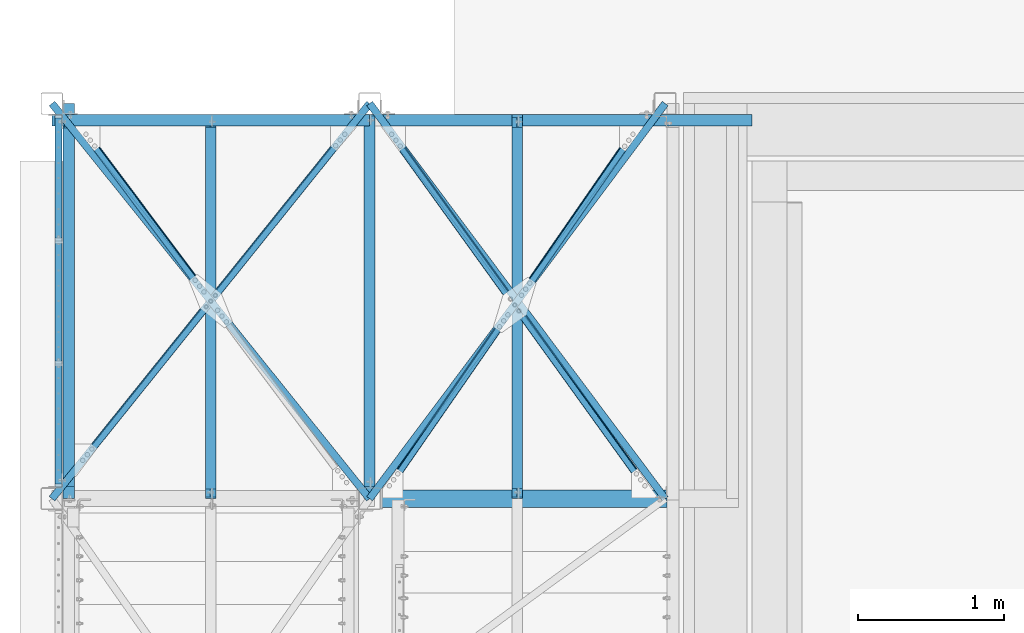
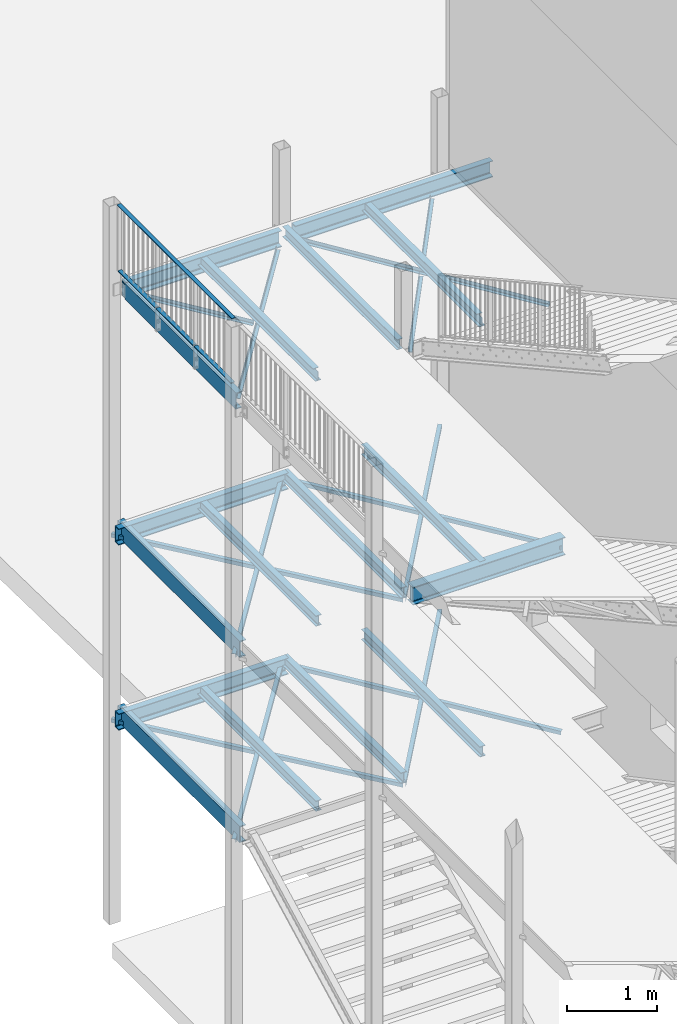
# One storey, part 28 of 78: 32 beams, 31 elements without a shape of their own.
"""IFC2X3 building model written with IfcOpenShell, lengths in millimetres."""

from ifc_helpers import new_model, si_unit, frame, origin_with_axes, origin_2d_with_axis, place, context, subcontext, project, spatial, polyline, rectangle, i_section, l_section, u_section, outline, extrude, boolean, clip, halfspace, material, type_object, element, aggregate, save


model = new_model("IFC2X3")

# Units and contexts
model_context = context("Model", 3, precision=1e-05, world=origin_with_axes())
body_context = subcontext(model_context, "Body", "Model", "MODEL_VIEW")
ifc_project = project(units=[si_unit("LENGTHUNIT", "METRE", prefix="MILLI"), si_unit("AREAUNIT", "SQUARE_METRE"), si_unit("VOLUMEUNIT", "CUBIC_METRE"), si_unit("MASSUNIT", "GRAM", prefix="KILO"), si_unit("TIMEUNIT", "SECOND"), si_unit("PLANEANGLEUNIT", "RADIAN"), si_unit("SOLIDANGLEUNIT", "STERADIAN"), si_unit("THERMODYNAMICTEMPERATUREUNIT", "DEGREE_CELSIUS"), si_unit("LUMINOUSINTENSITYUNIT", "LUMEN")], contexts=[model_context])

# Site, building, storey
site_placement = place(None, origin_with_axes())
site = spatial("IfcSite", under=ifc_project, at=site_placement, Name="Site", CompositionType="ELEMENT")
building_placement = place(site_placement, origin_with_axes())
building = spatial("IfcBuilding", under=site, at=building_placement, Name="Undefined", CompositionType="ELEMENT")
storey_placement = place(building_placement, origin_with_axes())
storey = spatial("IfcBuildingStorey", under=building, at=storey_placement, Name="Undefined", CompositionType="ELEMENT", Elevation=0.0)

# Assembly, beam
assembly_1_placement = place(storey_placement, origin_with_axes())
assembly_1 = element("IfcElementAssembly", 1, at=assembly_1_placement, inside=storey, AssemblyPlace="NOTDEFINED", PredefinedType="RIGID_FRAME")
ifc_material_1 = material(Name="STEEL/S275JR")
beam_type_1 = type_object("IfcBeamType", Name="UPN220", PredefinedType="NOTDEFINED")
beam_1_placement = place(assembly_1_placement, frame((-33216.43, 12693.0, 156560.04), z_axis=(0.0, 0.0, 1.0), x_axis=(1.0, 0.0, 0.0)))
beam_1 = element("IfcBeam", 2, at=beam_1_placement, type_object=beam_type_1, material=ifc_material_1, Name="SOLIVE", ObjectType="UPN220", context=body_context, shape_type="Clipping", body=[
    clip(extrude(u_section(Depth=220.0, FlangeWidth=80.0, WebThickness=9.0, FlangeThickness=12.5, FilletRadius=12.5, EdgeRadius=6.5, FlangeSlope=0.0798299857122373, at=origin_2d_with_axis()), frame((2612.98999999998, 0.0, 0.0), z_axis=(-1.0, 0.0, 0.0), x_axis=(0.0, -1.0, 0.0)), (0.0, 0.0, 1.0), 2612.99), halfspace(frame((84.9999999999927, 40.0, -110.0), z_axis=(-1.0, 0.0, 0.0), x_axis=(0.0, 0.0, 1.0)), False)),
])
aggregate(assembly_1, [beam_1])

assembly_2_placement = place(storey_placement, origin_with_axes())
assembly_2 = element("IfcElementAssembly", 3, at=assembly_2_placement, inside=storey, AssemblyPlace="NOTDEFINED", PredefinedType="RIGID_FRAME")
beam_2_placement = place(assembly_2_placement, frame((-35271.43, 12808.0, 150760.04), z_axis=(0.0, 0.0, -1.0), x_axis=(0.0, -1.0, 0.0)))
beam_2 = element("IfcBeam", 4, at=beam_2_placement, type_object=beam_type_1, material=ifc_material_1, Name="SOLIVE", ObjectType="UPN220", context=body_context, shape_type="SweptSolid", body=[
    extrude(u_section(Depth=220.0, FlangeWidth=80.0, WebThickness=9.0, FlangeThickness=12.5, FilletRadius=12.5, EdgeRadius=6.5, FlangeSlope=0.0798299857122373, at=origin_2d_with_axis()), frame((2699.99999999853, 0.0, 0.0), z_axis=(-1.0, 0.0, 0.0), x_axis=(0.0, -1.0, 0.0)), (0.0, 0.0, 1.0), 2700.0),
])
aggregate(assembly_2, [beam_2])

assembly_3_placement = place(storey_placement, origin_with_axes())
assembly_3 = element("IfcElementAssembly", 5, at=assembly_3_placement, inside=storey, AssemblyPlace="NOTDEFINED", PredefinedType="RIGID_FRAME")
beam_3_placement = place(assembly_3_placement, frame((-35386.43, 12693.0, 150760.04), z_axis=(0.0, 0.0, 1.0), x_axis=(1.0, 0.0, 0.0)))
beam_3 = element("IfcBeam", 6, at=beam_3_placement, type_object=beam_type_1, material=ifc_material_1, Name="SOLIVE", ObjectType="UPN220", context=body_context, shape_type="SweptSolid", body=[
    extrude(u_section(Depth=220.0, FlangeWidth=80.0, WebThickness=9.0, FlangeThickness=12.5, FilletRadius=12.5, EdgeRadius=6.5, FlangeSlope=0.0798299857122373, at=origin_2d_with_axis()), frame((2169.99999999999, 0.0, 0.0), z_axis=(-1.0, 0.0, 0.0), x_axis=(0.0, -1.0, 0.0)), (0.0, 0.0, 1.0), 2170.0),
])
aggregate(assembly_3, [beam_3])

assembly_4_placement = place(storey_placement, origin_with_axes())
assembly_4 = element("IfcElementAssembly", 7, at=assembly_4_placement, inside=storey, AssemblyPlace="NOTDEFINED", PredefinedType="RIGID_FRAME")
beam_4_placement = place(assembly_4_placement, frame((-35271.43, 12808.0, 156560.04), z_axis=(0.0, 0.0, -1.0), x_axis=(0.0, -1.0, 0.0)))
beam_4 = element("IfcBeam", 8, at=beam_4_placement, type_object=beam_type_1, material=ifc_material_1, Name="SOLIVE", ObjectType="UPN220", context=body_context, shape_type="CSG", body=[
    boolean("DIFFERENCE", boolean("DIFFERENCE", boolean("DIFFERENCE", boolean("DIFFERENCE", extrude(u_section(Depth=220.0, FlangeWidth=80.0, WebThickness=9.0, FlangeThickness=12.5, FilletRadius=12.5, EdgeRadius=6.5, FlangeSlope=0.0798299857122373, at=origin_2d_with_axis()), frame((2699.99999999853, 0.0, 0.0), z_axis=(-1.0, 0.0, 0.0), x_axis=(0.0, -1.0, 0.0)), (0.0, 0.0, 1.0), 2700.0), extrude(outline(polyline([(0.0, 0.0), (82.0, 0.0), (82.0, 34.0), (0.0, 34.0), (0.0, 0.0)])), frame((84.0, 49.9999999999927, 86.0), z_axis=(0.0, -1.0, 0.0), x_axis=(1.0, 0.0, 0.0)), (0.0, 0.0, 1.0), 100.0)), extrude(outline(polyline([(0.0, 0.0), (82.0, 0.0), (82.0, 34.0), (0.0, 34.0), (0.0, 0.0)])), frame((84.0, -50.0000000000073, -86.0), z_axis=(0.0, 1.0, 0.0), x_axis=(1.0, 0.0, 0.0)), (0.0, 0.0, 1.0), 100.0)), halfspace(frame((2615.0, -40.0, -110.0), z_axis=(1.0, 0.0, 0.0), x_axis=(0.0, 0.0, 1.0)), False)), halfspace(frame((94.0, 0.0, 1000.0), z_axis=(-1.0, 0.0, 0.0), x_axis=(0.0, -1.0, 0.0)), False)),
])
aggregate(assembly_4, [beam_4])

assembly_5_placement = place(storey_placement, origin_with_axes())
assembly_5 = element("IfcElementAssembly", 9, at=assembly_5_placement, inside=storey, AssemblyPlace="NOTDEFINED", PredefinedType="RIGID_FRAME")
beam_5_placement = place(assembly_5_placement, frame((-35386.43, 12693.0, 156560.04), z_axis=(0.0, 0.0, 1.0), x_axis=(1.0, 0.0, 0.0)))
beam_5 = element("IfcBeam", 10, at=beam_5_placement, type_object=beam_type_1, material=ifc_material_1, Name="SOLIVE", ObjectType="UPN220", context=body_context, shape_type="Clipping", body=[
    clip(clip(extrude(u_section(Depth=220.0, FlangeWidth=80.0, WebThickness=9.0, FlangeThickness=12.5, FilletRadius=12.5, EdgeRadius=6.5, FlangeSlope=0.0798299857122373, at=origin_2d_with_axis()), frame((2169.99999999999, 0.0, 0.0), z_axis=(-1.0, 0.0, 0.0), x_axis=(0.0, -1.0, 0.0)), (0.0, 0.0, 1.0), 2170.0), halfspace(frame((2085.0, -40.0, -109.999999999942), z_axis=(1.0, 0.0, 0.0), x_axis=(0.0, 0.0, 1.0)), False)), halfspace(frame((84.9999999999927, 40.0, -110.0), z_axis=(-1.0, 0.0, 0.0), x_axis=(0.0, 0.0, 1.0)), False)),
])
aggregate(assembly_5, [beam_5])

assembly_6_placement = place(storey_placement, origin_with_axes())
assembly_6 = element("IfcElementAssembly", 11, at=assembly_6_placement, inside=storey, AssemblyPlace="NOTDEFINED", PredefinedType="RIGID_FRAME")
beam_6_placement = place(assembly_6_placement, frame((-35271.43, 12808.0, 153260.04), z_axis=(0.0, 0.0, -1.0), x_axis=(0.0, -1.0, 0.0)))
beam_6 = element("IfcBeam", 12, at=beam_6_placement, type_object=beam_type_1, material=ifc_material_1, Name="SOLIVE", ObjectType="UPN220", context=body_context, shape_type="SweptSolid", body=[
    extrude(u_section(Depth=220.0, FlangeWidth=80.0, WebThickness=9.0, FlangeThickness=12.5, FilletRadius=12.5, EdgeRadius=6.5, FlangeSlope=0.0798299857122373, at=origin_2d_with_axis()), frame((2699.99999999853, 0.0, 0.0), z_axis=(-1.0, 0.0, 0.0), x_axis=(0.0, -1.0, 0.0)), (0.0, 0.0, 1.0), 2700.0),
])
aggregate(assembly_6, [beam_6])

assembly_7_placement = place(storey_placement, origin_with_axes())
assembly_7 = element("IfcElementAssembly", 13, at=assembly_7_placement, inside=storey, Name="STAB", AssemblyPlace="NOTDEFINED", PredefinedType="RIGID_FRAME")
beam_7_placement = place(assembly_7_placement, frame((-35386.43, 12693.0, 153260.04), z_axis=(0.0, 0.0, 1.0), x_axis=(1.0, 0.0, 0.0)))
beam_7 = element("IfcBeam", 14, at=beam_7_placement, type_object=beam_type_1, material=ifc_material_1, Name="SOLIVE", ObjectType="UPN220", context=body_context, shape_type="SweptSolid", body=[
    extrude(u_section(Depth=220.0, FlangeWidth=80.0, WebThickness=9.0, FlangeThickness=12.5, FilletRadius=12.5, EdgeRadius=6.5, FlangeSlope=0.0798299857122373, at=origin_2d_with_axis()), frame((2169.99999999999, 0.0, 0.0), z_axis=(-1.0, 0.0, 0.0), x_axis=(0.0, -1.0, 0.0)), (0.0, 0.0, 1.0), 2170.0),
])
aggregate(assembly_7, [beam_7])

# Assembly, beams
assembly_8_placement = place(storey_placement, origin_with_axes())
assembly_8 = element("IfcElementAssembly", 15, at=assembly_8_placement, inside=storey, Name="MAIN_COURANTE", AssemblyPlace="NOTDEFINED", PredefinedType="RIGID_FRAME")
ifc_material_2 = material(Name="STEEL/S235JR")
beam_type_2 = type_object("IfcBeamType", Name="PL10*50", PredefinedType="NOTDEFINED")
beam_8_placement = place(assembly_8_placement, frame((-35341.4299999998, 10187.9999999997, 156815.04), z_axis=(1.0, 0.0, 0.0), x_axis=(0.0, 1.0, 0.0)))
solid_1 = boolean("DIFFERENCE", boolean("DIFFERENCE", extrude(rectangle(XDim=20.0, YDim=50.0, at=origin_2d_with_axis()), frame((10.0000000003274, 885.0, -2.18278728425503e-10), z_axis=(0.0, -1.0, 0.0), x_axis=(1.0, 0.0, 0.0)), (0.0, 0.0, 1.0), 1190.0), halfspace(frame((10.0000000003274, 875.0, -2.18278728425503e-11), z_axis=(0.0, 1.0, 0.0), x_axis=(0.0, 0.0, -1.0)), False)), halfspace(frame((-999.999999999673, -305.0, -2.18278728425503e-10), z_axis=(0.0, 1.0, 0.0), x_axis=(0.0, 0.0, -1.0)), True))
solid_2 = boolean("DIFFERENCE", boolean("DIFFERENCE", extrude(rectangle(XDim=20.0, YDim=50.0, at=origin_2d_with_axis()), frame((850.000000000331, 885.0, -2.18278728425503e-10), z_axis=(0.0, -1.0, 0.0), x_axis=(1.0, 0.0, 0.0)), (0.0, 0.0, 1.0), 1190.0), halfspace(frame((850.000000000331, 875.0, -2.18278728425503e-11), z_axis=(0.0, 1.0, 0.0), x_axis=(0.0, 0.0, -1.0)), False)), halfspace(frame((-159.999999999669, -305.0, -2.18278728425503e-10), z_axis=(0.0, 1.0, 0.0), x_axis=(0.0, 0.0, -1.0)), True))
solid_3 = boolean("DIFFERENCE", boolean("DIFFERENCE", extrude(rectangle(XDim=20.0, YDim=50.0, at=origin_2d_with_axis()), frame((1690.00000000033, 885.0, -2.25554686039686e-10), z_axis=(0.0, -1.0, 0.0), x_axis=(1.0, 0.0, 0.0)), (0.0, 0.0, 1.0), 1190.0), halfspace(frame((1690.00000000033, 875.0, -3.63797880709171e-11), z_axis=(0.0, 1.0, 0.0), x_axis=(0.0, 0.0, -1.0)), False)), halfspace(frame((680.000000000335, -305.0, -2.25554686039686e-10), z_axis=(0.0, 1.0, 0.0), x_axis=(0.0, 0.0, -1.0)), True))
solid_4 = boolean("DIFFERENCE", extrude(rectangle(XDim=20.0, YDim=50.0, at=origin_2d_with_axis()), frame((2530.00000000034, 885.0, -2.18278728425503e-10), z_axis=(0.0, -1.0, 0.0), x_axis=(1.0, 0.0, 0.0)), (0.0, 0.0, 1.0), 1030.0), halfspace(frame((2530.00000000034, 875.0, -3.63797880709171e-11), z_axis=(0.0, 1.0, 0.0), x_axis=(0.0, 0.0, -1.0)), False))
beam_8 = element("IfcBeam", 16, at=beam_8_placement, type_object=beam_type_2, material=ifc_material_2, Name="LISSE", ObjectType="PL10*50", context=body_context, shape_type="CSG", body=[
    boolean("DIFFERENCE", boolean("DIFFERENCE", boolean("DIFFERENCE", boolean("DIFFERENCE", extrude(rectangle(XDim=10.0, YDim=50.0, at=origin_2d_with_axis()), frame((2540.00000000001, 0.0, 0.0), z_axis=(-1.0, 0.0, 0.0), x_axis=(0.0, -1.0, 0.0)), (0.0, 0.0, 1.0), 2540.0), solid_1), solid_2), solid_3), solid_4),
])
beam_9_placement = place(assembly_8_placement, frame((-35341.4299999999, 12728.0, 157695.04), z_axis=(1.0, 0.0, 0.0), x_axis=(0.0, -1.0, 0.0)))
beam_9 = element("IfcBeam", 17, at=beam_9_placement, type_object=beam_type_2, material=ifc_material_2, Name="MAIN_COURANTE", ObjectType="PL10*50", context=body_context, shape_type="SweptSolid", body=[
    extrude(rectangle(XDim=10.0, YDim=50.0, at=origin_2d_with_axis()), frame((2540.00000000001, 0.0, 0.0), z_axis=(-1.0, 0.0, 0.0), x_axis=(0.0, -1.0, 0.0)), (0.0, 0.0, 1.0), 2540.0),
])
aggregate(assembly_8, [beam_8, beam_9])

# Assembly, beam
assembly_9_placement = place(storey_placement, origin_with_axes())
assembly_9 = element("IfcElementAssembly", 18, at=assembly_9_placement, inside=storey, Name="STAB", AssemblyPlace="NOTDEFINED", PredefinedType="RIGID_FRAME")
beam_type_3 = type_object("IfcBeamType", Name="L50*5", PredefinedType="NOTDEFINED")
beam_10_placement = place(assembly_9_placement, frame((-32225.283595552, 11430.7782309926, 156483.04), z_axis=(0.0, 0.0, 1.0), x_axis=(0.569368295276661, 0.822082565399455, 0.0)))
beam_10 = element("IfcBeam", 19, at=beam_10_placement, type_object=beam_type_3, material=ifc_material_1, Name="STAB", ObjectType="L50*5", context=body_context, shape_type="Clipping", body=[
    clip(clip(extrude(l_section(Depth=50.0, Width=50.0, Thickness=5.0, FilletRadius=7.0, EdgeRadius=3.5, at=origin_2d_with_axis()), frame((1675.28400064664, 1.85993887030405e-13, 0.0), z_axis=(-1.0, 0.0, 0.0), x_axis=(0.0, -1.0, 0.0)), (0.0, 0.0, 1.0), 1675.28), halfspace(frame((1445.09519071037, -9.45874489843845e-11, -33.0), z_axis=(-1.0, 0.0, 0.0), x_axis=(0.0, 1.0, 0.0)), True)), halfspace(frame((57.4409158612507, 8.73114913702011e-11, -33.0), z_axis=(1.0, 0.0, 0.0), x_axis=(0.0, -1.0, 0.0)), True)),
])
aggregate(assembly_9, [beam_10])

assembly_10_placement = place(storey_placement, origin_with_axes())
assembly_10 = element("IfcElementAssembly", 20, at=assembly_10_placement, inside=storey, Name="STAB", AssemblyPlace="NOTDEFINED", PredefinedType="RIGID_FRAME")
beam_11_placement = place(assembly_10_placement, frame((-33141.4299999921, 10107.9999999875, 156483.04), z_axis=(0.0, 0.0, 1.0), x_axis=(0.569368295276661, 0.822082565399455, 0.0)))
beam_11 = element("IfcBeam", 21, at=beam_11_placement, type_object=beam_type_3, material=ifc_material_1, Name="STAB", ObjectType="L50*5", context=body_context, shape_type="Clipping", body=[
    clip(clip(extrude(l_section(Depth=50.0, Width=50.0, Thickness=5.0, FilletRadius=7.0, EdgeRadius=3.5, at=origin_2d_with_axis()), frame((1609.05763811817, 0.0, -2.91038304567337e-11), z_axis=(-1.0, 0.0, 0.0), x_axis=(0.0, -1.0, 0.0)), (0.0, 0.0, 1.0), 1609.06), halfspace(frame((1553.27542334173, 1.16415321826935e-10, -33.0000000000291), z_axis=(-1.0, 0.0, 0.0), x_axis=(0.0, 1.0, 0.0)), True)), halfspace(frame((81.9068669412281, 8.00355337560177e-11, -33.0000000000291), z_axis=(1.0, 0.0, 0.0), x_axis=(0.0, -1.0, 0.0)), True)),
])
aggregate(assembly_10, [beam_11])

assembly_11_placement = place(storey_placement, origin_with_axes())
assembly_11 = element("IfcElementAssembly", 22, at=assembly_11_placement, inside=storey, Name="STAB", AssemblyPlace="NOTDEFINED", PredefinedType="RIGID_FRAME")
beam_12_placement = place(assembly_11_placement, frame((-33216.4299999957, 10107.9999999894, 150705.04), z_axis=(0.0, 0.0, -1.0), x_axis=(0.599050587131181, 0.800711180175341, 0.0)))
beam_12 = element("IfcBeam", 23, at=beam_12_placement, type_object=beam_type_3, material=ifc_material_1, Name="STAB", ObjectType="L50*5", context=body_context, shape_type="SweptSolid", body=[
    extrude(l_section(Depth=50.0, Width=50.0, Thickness=5.0, FilletRadius=7.0, EdgeRadius=3.5, at=origin_2d_with_axis()), frame((3372.00237247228, 1.87183733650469e-13, 0.0), z_axis=(-1.0, 0.0, 0.0), x_axis=(0.0, -1.0, 0.0)), (0.0, 0.0, 1.0), 3372.0),
])
aggregate(assembly_11, [beam_12])

assembly_12_placement = place(storey_placement, origin_with_axes())
assembly_12 = element("IfcElementAssembly", 24, at=assembly_12_placement, inside=storey, Name="STAB", AssemblyPlace="NOTDEFINED", PredefinedType="RIGID_FRAME")
beam_13_placement = place(assembly_12_placement, frame((-33216.4300000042, 12807.9999999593, 150705.04), z_axis=(0.0, 0.0, -1.0), x_axis=(0.59905058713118, -0.800711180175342, 0.0)))
beam_13 = element("IfcBeam", 25, at=beam_13_placement, type_object=beam_type_3, material=ifc_material_1, Name="STAB", ObjectType="L50*5", context=body_context, shape_type="SweptSolid", body=[
    extrude(l_section(Depth=50.0, Width=50.0, Thickness=5.0, FilletRadius=7.0, EdgeRadius=3.5, at=origin_2d_with_axis()), frame((3372.00237247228, 1.87183733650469e-13, 0.0), z_axis=(-1.0, 0.0, 0.0), x_axis=(0.0, -1.0, 0.0)), (0.0, 0.0, 1.0), 3372.0),
])
aggregate(assembly_12, [beam_13])

assembly_13_placement = place(storey_placement, origin_with_axes())
assembly_13 = element("IfcElementAssembly", 26, at=assembly_13_placement, inside=storey, Name="STAB", AssemblyPlace="NOTDEFINED", PredefinedType="RIGID_FRAME")
beam_14_placement = place(assembly_13_placement, frame((-33216.4300000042, 12807.9999999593, 156483.04), z_axis=(0.0, 0.0, 1.0), x_axis=(0.584502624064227, -0.81139181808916, 0.0)))
beam_14 = element("IfcBeam", 27, at=beam_14_placement, type_object=beam_type_3, material=ifc_material_1, Name="STAB", ObjectType="L50*5", context=body_context, shape_type="Clipping", body=[
    clip(clip(extrude(l_section(Depth=50.0, Width=50.0, Thickness=5.0, FilletRadius=7.0, EdgeRadius=3.5, at=origin_2d_with_axis()), frame((3327.61551265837, 3.69439535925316e-13, -2.91038304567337e-11), z_axis=(-1.0, 0.0, 0.0), x_axis=(0.0, -1.0, 0.0)), (0.0, 0.0, 1.0), 3327.62), halfspace(frame((3244.16314752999, -8.00355337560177e-11, -33.0000000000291), z_axis=(-1.0, 0.0, 0.0), x_axis=(0.0, 1.0, 0.0)), True)), halfspace(frame((233.68804236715, 8.00355337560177e-11, -33.0000000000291), z_axis=(1.0, 0.0, 0.0), x_axis=(0.0, -1.0, 0.0)), True)),
])
aggregate(assembly_13, [beam_14])

assembly_14_placement = place(storey_placement, origin_with_axes())
assembly_14 = element("IfcElementAssembly", 28, at=assembly_14_placement, inside=storey, Name="STAB", AssemblyPlace="NOTDEFINED", PredefinedType="RIGID_FRAME")
beam_15_placement = place(assembly_14_placement, frame((-33216.4299999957, 10107.9999999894, 153205.04), z_axis=(0.0, 0.0, -1.0), x_axis=(0.599050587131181, 0.800711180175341, 0.0)))
beam_15 = element("IfcBeam", 29, at=beam_15_placement, type_object=beam_type_3, material=ifc_material_1, Name="STAB", ObjectType="L50*5", context=body_context, shape_type="SweptSolid", body=[
    extrude(l_section(Depth=50.0, Width=50.0, Thickness=5.0, FilletRadius=7.0, EdgeRadius=3.5, at=origin_2d_with_axis()), frame((3372.00237247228, 1.87183733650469e-13, 0.0), z_axis=(-1.0, 0.0, 0.0), x_axis=(0.0, -1.0, 0.0)), (0.0, 0.0, 1.0), 3372.0),
])
aggregate(assembly_14, [beam_15])

assembly_15_placement = place(storey_placement, origin_with_axes())
assembly_15 = element("IfcElementAssembly", 30, at=assembly_15_placement, inside=storey, Name="STAB", AssemblyPlace="NOTDEFINED", PredefinedType="RIGID_FRAME")
beam_16_placement = place(assembly_15_placement, frame((-33216.4300000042, 12807.9999999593, 153205.04), z_axis=(0.0, 0.0, -1.0), x_axis=(0.59905058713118, -0.800711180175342, 0.0)))
beam_16 = element("IfcBeam", 31, at=beam_16_placement, type_object=beam_type_3, material=ifc_material_1, Name="STAB", ObjectType="L50*5", context=body_context, shape_type="SweptSolid", body=[
    extrude(l_section(Depth=50.0, Width=50.0, Thickness=5.0, FilletRadius=7.0, EdgeRadius=3.5, at=origin_2d_with_axis()), frame((3372.00237247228, 1.87183733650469e-13, 0.0), z_axis=(-1.0, 0.0, 0.0), x_axis=(0.0, -1.0, 0.0)), (0.0, 0.0, 1.0), 3372.0),
])
aggregate(assembly_15, [beam_16])

assembly_16_placement = place(storey_placement, origin_with_axes())
assembly_16 = element("IfcElementAssembly", 32, at=assembly_16_placement, inside=storey, Name="STAB", AssemblyPlace="NOTDEFINED", PredefinedType="RIGID_FRAME")
beam_17_placement = place(assembly_16_placement, frame((-35386.4299999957, 10107.9999999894, 150705.04), z_axis=(0.0, 0.0, -1.0), x_axis=(0.626453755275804, 0.779458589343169, 0.0)))
beam_17 = element("IfcBeam", 33, at=beam_17_placement, type_object=beam_type_3, material=ifc_material_1, Name="STAB", ObjectType="L50*5", context=body_context, shape_type="SweptSolid", body=[
    extrude(l_section(Depth=50.0, Width=50.0, Thickness=5.0, FilletRadius=7.0, EdgeRadius=3.5, at=origin_2d_with_axis()), frame((3463.94284017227, 0.0, 2.91038304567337e-11), z_axis=(-1.0, 0.0, 0.0), x_axis=(0.0, -1.0, 0.0)), (0.0, 0.0, 1.0), 3463.94),
])
aggregate(assembly_16, [beam_17])

assembly_17_placement = place(storey_placement, origin_with_axes())
assembly_17 = element("IfcElementAssembly", 34, at=assembly_17_placement, inside=storey, Name="STAB", AssemblyPlace="NOTDEFINED", PredefinedType="RIGID_FRAME")
beam_18_placement = place(assembly_17_placement, frame((-35386.4300000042, 12807.9999999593, 150705.04), z_axis=(0.0, 0.0, -1.0), x_axis=(0.626453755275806, -0.779458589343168, 0.0)))
beam_18 = element("IfcBeam", 35, at=beam_18_placement, type_object=beam_type_3, material=ifc_material_1, Name="STAB", ObjectType="L50*5", context=body_context, shape_type="SweptSolid", body=[
    extrude(l_section(Depth=50.0, Width=50.0, Thickness=5.0, FilletRadius=7.0, EdgeRadius=3.5, at=origin_2d_with_axis()), frame((3463.94284017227, 0.0, 2.91038304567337e-11), z_axis=(-1.0, 0.0, 0.0), x_axis=(0.0, -1.0, 0.0)), (0.0, 0.0, 1.0), 3463.94),
])
aggregate(assembly_17, [beam_18])

assembly_18_placement = place(storey_placement, origin_with_axes())
assembly_18 = element("IfcElementAssembly", 36, at=assembly_18_placement, inside=storey, Name="STAB", AssemblyPlace="NOTDEFINED", PredefinedType="RIGID_FRAME")
beam_19_placement = place(assembly_18_placement, frame((-35386.4299999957, 10107.9999999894, 156483.04), z_axis=(0.0, 0.0, 1.0), x_axis=(0.626453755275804, 0.779458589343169, 0.0)))
beam_19 = element("IfcBeam", 37, at=beam_19_placement, type_object=beam_type_3, material=ifc_material_1, Name="STAB", ObjectType="L50*5", context=body_context, shape_type="Clipping", body=[
    clip(clip(extrude(l_section(Depth=50.0, Width=50.0, Thickness=5.0, FilletRadius=7.0, EdgeRadius=3.5, at=origin_2d_with_axis()), frame((3463.94284017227, 0.0, 2.91038304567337e-11), z_axis=(-1.0, 0.0, 0.0), x_axis=(0.0, -1.0, 0.0)), (0.0, 0.0, 1.0), 3463.94), halfspace(frame((3219.33543415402, 2.5465851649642e-10, -33.0000000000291), z_axis=(-1.0, 0.0, 0.0), x_axis=(0.0, 1.0, 0.0)), True)), halfspace(frame((310.456219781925, -3.56521923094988e-10, -33.0000000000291), z_axis=(1.0, 0.0, 0.0), x_axis=(0.0, -1.0, 0.0)), True)),
])
aggregate(assembly_18, [beam_19])

assembly_19_placement = place(storey_placement, origin_with_axes())
assembly_19 = element("IfcElementAssembly", 38, at=assembly_19_placement, inside=storey, Name="STAB", AssemblyPlace="NOTDEFINED", PredefinedType="RIGID_FRAME")
beam_20_placement = place(assembly_19_placement, frame((-35311.4300000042, 12807.9999999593, 156483.04), z_axis=(0.0, 0.0, 1.0), x_axis=(0.59905058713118, -0.800711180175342, 0.0)))
beam_20 = element("IfcBeam", 39, at=beam_20_placement, type_object=beam_type_3, material=ifc_material_1, Name="STAB", ObjectType="L50*5", context=body_context, shape_type="Clipping", body=[
    clip(clip(extrude(l_section(Depth=50.0, Width=50.0, Thickness=5.0, FilletRadius=7.0, EdgeRadius=3.5, at=origin_2d_with_axis()), frame((1686.0011860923, 0.0, 0.0), z_axis=(-1.0, 0.0, 0.0), x_axis=(0.0, -1.0, 0.0)), (0.0, 0.0, 1.0), 1686.0), halfspace(frame((1633.11653529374, 6.54836185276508e-11, -33.0), z_axis=(-1.0, 0.0, 0.0), x_axis=(0.0, 1.0, 0.0)), True)), halfspace(frame((237.259413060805, 5.89352566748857e-10, -33.0), z_axis=(1.0, 0.0, 0.0), x_axis=(0.0, -1.0, 0.0)), True)),
])
aggregate(assembly_19, [beam_20])

assembly_20_placement = place(storey_placement, origin_with_axes())
assembly_20 = element("IfcElementAssembly", 40, at=assembly_20_placement, inside=storey, Name="STAB", AssemblyPlace="NOTDEFINED", PredefinedType="RIGID_FRAME")
beam_21_placement = place(assembly_20_placement, frame((-35386.4299999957, 10107.9999999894, 153205.04), z_axis=(0.0, 0.0, -1.0), x_axis=(0.626453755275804, 0.779458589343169, 0.0)))
beam_21 = element("IfcBeam", 41, at=beam_21_placement, type_object=beam_type_3, material=ifc_material_1, Name="STAB", ObjectType="L50*5", context=body_context, shape_type="SweptSolid", body=[
    extrude(l_section(Depth=50.0, Width=50.0, Thickness=5.0, FilletRadius=7.0, EdgeRadius=3.5, at=origin_2d_with_axis()), frame((3463.94284017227, 0.0, 2.91038304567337e-11), z_axis=(-1.0, 0.0, 0.0), x_axis=(0.0, -1.0, 0.0)), (0.0, 0.0, 1.0), 3463.94),
])
aggregate(assembly_20, [beam_21])

assembly_21_placement = place(storey_placement, origin_with_axes())
assembly_21 = element("IfcElementAssembly", 42, at=assembly_21_placement, inside=storey, Name="STAB", AssemblyPlace="NOTDEFINED", PredefinedType="RIGID_FRAME")
beam_22_placement = place(assembly_21_placement, frame((-35386.4300000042, 12807.9999999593, 153205.04), z_axis=(0.0, 0.0, -1.0), x_axis=(0.626453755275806, -0.779458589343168, 0.0)))
beam_22 = element("IfcBeam", 43, at=beam_22_placement, type_object=beam_type_3, material=ifc_material_1, Name="STAB", ObjectType="L50*5", context=body_context, shape_type="SweptSolid", body=[
    extrude(l_section(Depth=50.0, Width=50.0, Thickness=5.0, FilletRadius=7.0, EdgeRadius=3.5, at=origin_2d_with_axis()), frame((3463.94284017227, 0.0, 2.91038304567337e-11), z_axis=(-1.0, 0.0, 0.0), x_axis=(0.0, -1.0, 0.0)), (0.0, 0.0, 1.0), 3463.94),
])
aggregate(assembly_21, [beam_22])

assembly_22_placement = place(storey_placement, origin_with_axes())
assembly_22 = element("IfcElementAssembly", 44, at=assembly_22_placement, inside=storey, AssemblyPlace="NOTDEFINED", PredefinedType="RIGID_FRAME")
beam_type_4 = type_object("IfcBeamType", Name="IPE140", PredefinedType="NOTDEFINED")
beam_23_placement = place(assembly_22_placement, frame((-32206.43, 12733.0, 150800.04), z_axis=(0.0, 0.0, -1.0), x_axis=(0.0, -1.0, 0.0)))
beam_23 = element("IfcBeam", 45, at=beam_23_placement, type_object=beam_type_4, material=ifc_material_1, Name="SOLIVE", ObjectType="IPE140", context=body_context, shape_type="SweptSolid", body=[
    extrude(i_section(OverallWidth=73.0, OverallDepth=140.0, WebThickness=4.699999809, FlangeThickness=6.900000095, FilletRadius=7.0, at=origin_2d_with_axis()), frame((2625.0, 0.0, 0.0), z_axis=(-1.0, 0.0, 0.0), x_axis=(0.0, -1.0, 0.0)), (0.0, 0.0, 1.0), 2625.0),
])
aggregate(assembly_22, [beam_23])

assembly_23_placement = place(storey_placement, origin_with_axes())
assembly_23 = element("IfcElementAssembly", 46, at=assembly_23_placement, inside=storey, AssemblyPlace="NOTDEFINED", PredefinedType="RIGID_FRAME")
beam_24_placement = place(assembly_23_placement, frame((-32206.43, 12733.0, 156600.04), z_axis=(0.0, 0.0, -1.0), x_axis=(0.0, -1.0, 0.0)))
beam_24 = element("IfcBeam", 47, at=beam_24_placement, type_object=beam_type_4, material=ifc_material_1, Name="SOLIVE", ObjectType="IPE140", context=body_context, shape_type="CSG", body=[
    boolean("DIFFERENCE", boolean("DIFFERENCE", boolean("DIFFERENCE", boolean("DIFFERENCE", boolean("DIFFERENCE", boolean("DIFFERENCE", extrude(i_section(OverallWidth=73.0, OverallDepth=140.0, WebThickness=4.699999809, FlangeThickness=6.900000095, FilletRadius=7.0, at=origin_2d_with_axis()), frame((2625.0, 0.0, 0.0), z_axis=(-1.0, 0.0, 0.0), x_axis=(0.0, -1.0, 0.0)), (0.0, 0.0, 1.0), 2625.0), extrude(outline(polyline([(0.0, 0.0), (81.0, 0.0), (81.0, 32.5), (0.0, 32.5), (0.0, 0.0)])), frame((9.0, -46.5, -47.5), z_axis=(0.0, 1.0, 0.0), x_axis=(1.0, 0.0, 0.0)), (0.0, 0.0, 1.0), 93.0)), extrude(rectangle(XDim=90.0, YDim=90.0, at=origin_2d_with_axis()), frame((54.0, -47.9499999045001, -45.0), z_axis=(0.0, 0.0, 1.0), x_axis=(1.0, 0.0, 0.0)), (0.0, 0.0, 1.0), 102.0)), extrude(outline(polyline([(0.0, 0.0), (66.9000000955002, 0.0), (66.9000000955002, 29.80000029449), (0.0, 29.80000029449), (0.0, 0.0)])), frame((2621.9000000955, 46.5, -50.1999998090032), z_axis=(0.0, -1.0, 0.0), x_axis=(-1.0, 0.0, 0.0)), (0.0, 0.0, 1.0), 93.0)), extrude(rectangle(XDim=90.0, YDim=90.0, at=origin_2d_with_axis()), frame((2576.9000000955, -47.6499999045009, -45.0), z_axis=(0.0, 0.0, 1.0), x_axis=(-1.0, 0.0, 0.0)), (0.0, 0.0, 1.0), 102.0)), halfspace(frame((2611.9000000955, 0.0, -170.0), z_axis=(1.0, 0.0, 0.0), x_axis=(0.0, -1.0, 0.0)), False)), halfspace(frame((19.0, 0.0, -170.0), z_axis=(-1.0, 0.0, 0.0), x_axis=(0.0, 1.0, 0.0)), False)),
])
aggregate(assembly_23, [beam_24])

assembly_24_placement = place(storey_placement, origin_with_axes())
assembly_24 = element("IfcElementAssembly", 48, at=assembly_24_placement, inside=storey, AssemblyPlace="NOTDEFINED", PredefinedType="RIGID_FRAME")
beam_25_placement = place(assembly_24_placement, frame((-32206.43, 12733.0, 153300.04), z_axis=(0.0, 0.0, -1.0), x_axis=(0.0, -1.0, 0.0)))
beam_25 = element("IfcBeam", 49, at=beam_25_placement, type_object=beam_type_4, material=ifc_material_1, Name="SOLIVE", ObjectType="IPE140", context=body_context, shape_type="SweptSolid", body=[
    extrude(i_section(OverallWidth=73.0, OverallDepth=140.0, WebThickness=4.699999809, FlangeThickness=6.900000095, FilletRadius=7.0, at=origin_2d_with_axis()), frame((2625.0, 0.0, 0.0), z_axis=(-1.0, 0.0, 0.0), x_axis=(0.0, -1.0, 0.0)), (0.0, 0.0, 1.0), 2625.0),
])
aggregate(assembly_24, [beam_25])

assembly_25_placement = place(storey_placement, origin_with_axes())
assembly_25 = element("IfcElementAssembly", 50, at=assembly_25_placement, inside=storey, AssemblyPlace="NOTDEFINED", PredefinedType="RIGID_FRAME")
beam_26_placement = place(assembly_25_placement, frame((-33216.43, 12733.0, 150800.04), z_axis=(0.0, 0.0, -1.0), x_axis=(0.0, -1.0, 0.0)))
beam_26 = element("IfcBeam", 51, at=beam_26_placement, type_object=beam_type_4, material=ifc_material_1, Name="SOLIVE", ObjectType="IPE140", context=body_context, shape_type="SweptSolid", body=[
    extrude(i_section(OverallWidth=73.0, OverallDepth=140.0, WebThickness=4.699999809, FlangeThickness=6.900000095, FilletRadius=7.0, at=origin_2d_with_axis()), frame((2625.0, 0.0, 0.0), z_axis=(-1.0, 0.0, 0.0), x_axis=(0.0, -1.0, 0.0)), (0.0, 0.0, 1.0), 2625.0),
])
aggregate(assembly_25, [beam_26])

assembly_26_placement = place(storey_placement, origin_with_axes())
assembly_26 = element("IfcElementAssembly", 52, at=assembly_26_placement, inside=storey, AssemblyPlace="NOTDEFINED", PredefinedType="RIGID_FRAME")
beam_27_placement = place(assembly_26_placement, frame((-34301.43, 12733.0, 150800.04), z_axis=(0.0, 0.0, -1.0), x_axis=(0.0, -1.0, 0.0)))
beam_27 = element("IfcBeam", 53, at=beam_27_placement, type_object=beam_type_4, material=ifc_material_1, Name="SOLIVE", ObjectType="IPE140", context=body_context, shape_type="SweptSolid", body=[
    extrude(i_section(OverallWidth=73.0, OverallDepth=140.0, WebThickness=4.699999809, FlangeThickness=6.900000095, FilletRadius=7.0, at=origin_2d_with_axis()), frame((2625.0, 0.0, 0.0), z_axis=(-1.0, 0.0, 0.0), x_axis=(0.0, -1.0, 0.0)), (0.0, 0.0, 1.0), 2625.0),
])
aggregate(assembly_26, [beam_27])

assembly_27_placement = place(storey_placement, origin_with_axes())
assembly_27 = element("IfcElementAssembly", 54, at=assembly_27_placement, inside=storey, AssemblyPlace="NOTDEFINED", PredefinedType="RIGID_FRAME")
beam_28_placement = place(assembly_27_placement, frame((-33216.43, 12733.0, 156600.04), z_axis=(0.0, 0.0, -1.0), x_axis=(0.0, -1.0, 0.0)))
beam_28 = element("IfcBeam", 55, at=beam_28_placement, type_object=beam_type_4, material=ifc_material_1, Name="SOLIVE", ObjectType="IPE140", context=body_context, shape_type="CSG", body=[
    boolean("DIFFERENCE", boolean("DIFFERENCE", boolean("DIFFERENCE", boolean("DIFFERENCE", extrude(i_section(OverallWidth=73.0, OverallDepth=140.0, WebThickness=4.699999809, FlangeThickness=6.900000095, FilletRadius=7.0, at=origin_2d_with_axis()), frame((2625.0, 0.0, 0.0), z_axis=(-1.0, 0.0, 0.0), x_axis=(0.0, -1.0, 0.0)), (0.0, 0.0, 1.0), 2625.0), extrude(rectangle(XDim=90.0, YDim=90.0, at=origin_2d_with_axis()), frame((45.0, -47.9499999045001, -50.0), z_axis=(0.0, 0.0, 1.0), x_axis=(1.0, 0.0, 0.0)), (0.0, 0.0, 1.0), 102.0)), extrude(rectangle(XDim=90.0, YDim=90.0, at=origin_2d_with_axis()), frame((2505.0, -47.6499999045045, -50.0), z_axis=(0.0, 0.0, 1.0), x_axis=(-1.0, 0.0, 0.0)), (0.0, 0.0, 1.0), 102.0)), halfspace(frame((2540.0, 0.0, -170.0), z_axis=(1.0, 0.0, 0.0), x_axis=(0.0, -1.0, 0.0)), False)), halfspace(frame((10.0, 0.0, -170.0), z_axis=(-1.0, 0.0, 0.0), x_axis=(0.0, 1.0, 0.0)), False)),
])
aggregate(assembly_27, [beam_28])

assembly_28_placement = place(storey_placement, origin_with_axes())
assembly_28 = element("IfcElementAssembly", 56, at=assembly_28_placement, inside=storey, AssemblyPlace="NOTDEFINED", PredefinedType="RIGID_FRAME")
beam_29_placement = place(assembly_28_placement, frame((-34301.43, 12733.0, 156600.04), z_axis=(0.0, 0.0, -1.0), x_axis=(0.0, -1.0, 0.0)))
beam_29 = element("IfcBeam", 57, at=beam_29_placement, type_object=beam_type_4, material=ifc_material_1, Name="SOLIVE", ObjectType="IPE140", context=body_context, shape_type="CSG", body=[
    boolean("DIFFERENCE", boolean("DIFFERENCE", boolean("DIFFERENCE", boolean("DIFFERENCE", boolean("DIFFERENCE", boolean("DIFFERENCE", extrude(i_section(OverallWidth=73.0, OverallDepth=140.0, WebThickness=4.699999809, FlangeThickness=6.900000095, FilletRadius=7.0, at=origin_2d_with_axis()), frame((2625.0, 0.0, 0.0), z_axis=(-1.0, 0.0, 0.0), x_axis=(0.0, -1.0, 0.0)), (0.0, 0.0, 1.0), 2625.0), extrude(outline(polyline([(0.0, 0.0), (62.0499999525, 0.0), (62.0499999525, 29.1999998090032), (0.0, 29.1999998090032), (0.0, 0.0)])), frame((2622.0499999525, 46.5, -50.8000001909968), z_axis=(0.0, -1.0, 0.0), x_axis=(-1.0, 0.0, 0.0)), (0.0, 0.0, 1.0), 93.0)), extrude(rectangle(XDim=90.0, YDim=90.0, at=origin_2d_with_axis()), frame((2577.0499999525, -47.6499999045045, -45.0), z_axis=(0.0, 0.0, 1.0), x_axis=(-1.0, 0.0, 0.0)), (0.0, 0.0, 1.0), 102.0)), extrude(outline(polyline([(0.0, 0.0), (81.0, 0.0), (81.0, 32.5), (0.0, 32.5), (0.0, 0.0)])), frame((9.0, -46.5, -47.5), z_axis=(0.0, 1.0, 0.0), x_axis=(1.0, 0.0, 0.0)), (0.0, 0.0, 1.0), 93.0)), extrude(rectangle(XDim=90.0, YDim=90.0, at=origin_2d_with_axis()), frame((54.0, -47.9499999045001, -45.0), z_axis=(0.0, 0.0, 1.0), x_axis=(1.0, 0.0, 0.0)), (0.0, 0.0, 1.0), 102.0)), halfspace(frame((2612.0499999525, 0.0, -170.0), z_axis=(1.0, 0.0, 0.0), x_axis=(0.0, -1.0, 0.0)), False)), halfspace(frame((19.0, 0.0, -170.0), z_axis=(-1.0, 0.0, 0.0), x_axis=(0.0, 1.0, 0.0)), False)),
])
aggregate(assembly_28, [beam_29])

assembly_29_placement = place(storey_placement, origin_with_axes())
assembly_29 = element("IfcElementAssembly", 58, at=assembly_29_placement, inside=storey, AssemblyPlace="NOTDEFINED", PredefinedType="RIGID_FRAME")
beam_30_placement = place(assembly_29_placement, frame((-33216.43, 12733.0, 153300.04), z_axis=(0.0, 0.0, -1.0), x_axis=(0.0, -1.0, 0.0)))
beam_30 = element("IfcBeam", 59, at=beam_30_placement, type_object=beam_type_4, material=ifc_material_1, Name="SOLIVE", ObjectType="IPE140", context=body_context, shape_type="SweptSolid", body=[
    extrude(i_section(OverallWidth=73.0, OverallDepth=140.0, WebThickness=4.699999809, FlangeThickness=6.900000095, FilletRadius=7.0, at=origin_2d_with_axis()), frame((2625.0, 0.0, 0.0), z_axis=(-1.0, 0.0, 0.0), x_axis=(0.0, -1.0, 0.0)), (0.0, 0.0, 1.0), 2625.0),
])
aggregate(assembly_29, [beam_30])

assembly_30_placement = place(storey_placement, origin_with_axes())
assembly_30 = element("IfcElementAssembly", 60, at=assembly_30_placement, inside=storey, AssemblyPlace="NOTDEFINED", PredefinedType="RIGID_FRAME")
beam_31_placement = place(assembly_30_placement, frame((-34301.43, 12733.0, 153300.04), z_axis=(0.0, 0.0, -1.0), x_axis=(0.0, -1.0, 0.0)))
beam_31 = element("IfcBeam", 61, at=beam_31_placement, type_object=beam_type_4, material=ifc_material_1, Name="SOLIVE", ObjectType="IPE140", context=body_context, shape_type="SweptSolid", body=[
    extrude(i_section(OverallWidth=73.0, OverallDepth=140.0, WebThickness=4.699999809, FlangeThickness=6.900000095, FilletRadius=7.0, at=origin_2d_with_axis()), frame((2625.0, 0.0, 0.0), z_axis=(-1.0, 0.0, 0.0), x_axis=(0.0, -1.0, 0.0)), (0.0, 0.0, 1.0), 2625.0),
])
aggregate(assembly_30, [beam_31])

assembly_31_placement = place(storey_placement, origin_with_axes())
assembly_31 = element("IfcElementAssembly", 62, at=assembly_31_placement, inside=storey, Name="POTEAU", AssemblyPlace="NOTDEFINED", PredefinedType="RIGID_FRAME")
beam_type_5 = type_object("IfcBeamType", Name="IPE240", PredefinedType="NOTDEFINED")
beam_32_placement = place(assembly_31_placement, frame((-31182.86, 10108.0, 153250.04), z_axis=(0.0, 0.0, 1.0), x_axis=(-1.0, 0.0, 0.0)))
beam_32 = element("IfcBeam", 63, at=beam_32_placement, type_object=beam_type_5, material=ifc_material_1, Name="SOLIVE", ObjectType="IPE240", context=body_context, shape_type="Clipping", body=[
    clip(extrude(i_section(OverallWidth=120.0, OverallDepth=240.0, WebThickness=6.199999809, FlangeThickness=9.800000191, FilletRadius=15.0, at=origin_2d_with_axis()), frame((2033.57, 0.0, 0.0), z_axis=(-1.0, 0.0, 0.0), x_axis=(0.0, -1.0, 0.0)), (0.0, 0.0, 1.0), 2033.57), halfspace(frame((1948.57, 0.0, -130.0), z_axis=(-1.0, 0.0, 0.0), x_axis=(0.0, 1.0, 0.0)), True)),
])
aggregate(assembly_31, [beam_32])

save(model, "model.ifc")
